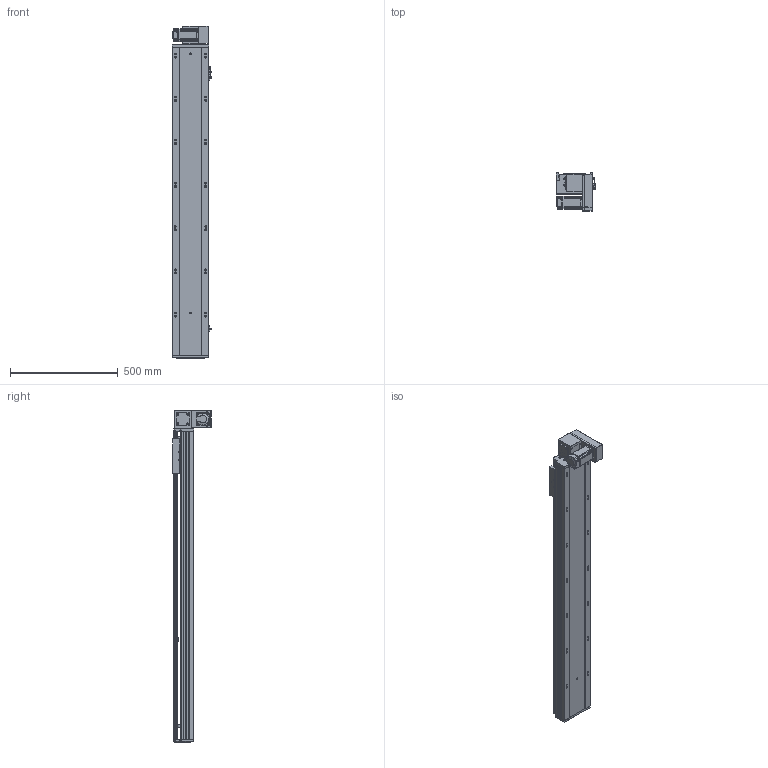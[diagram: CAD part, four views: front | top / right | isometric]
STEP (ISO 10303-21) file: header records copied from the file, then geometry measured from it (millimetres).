
FILE_DESCRIPTION (( 'STEP AP203' ), '1' );
FILE_NAME ('RY170-T-300-DR-P400W.SLDASM_1150.step', '2021-03-01T08:23:38', ( '盈信电脑' ), ( '东莞市道滘镇水果街19号' ), 'SwSTEP 2.0', 'SolidWorks 2012', '' );
FILE_SCHEMA (( 'CONFIG_CONTROL_DESIGN' ));
Length unit declared in the file: millimetre
Products named in the file (19): RY170-T-呴雄粣揤踡啣; 15; RY170-T-300-DR-P400W.SLDASM_1150; 滅袉蝶18-10; RY170-T肮祭謫裔啣; RY170-T蹟翐M4; RY120-T主同步轮轴承压盖; RY170-T肮祭湍揤踡輸1; RY170肮祭謫萇儂欶; RY170同步轮电机安装板(400W); RY170-T肮祭湍揤踡輸2; RY170翋肮祭謫釱; RY170肮祭謫ヶ裔啣; RY170外置感应片(200共用）; 覜茼ん672; RY170綴裔啣; RY170肮祭湍臏賑輸; RY170-T-300肮祭謫倰第裔啣-DR_1150; RY170-T-300肮祭謫倰第菁釱-DR_1150
Assembly tree (23 placements, depth 2):
  RY170-T-300-DR-P400W.SLDASM_1150
    RY170-T-300肮祭謫倰第菁釱-DR_1150
    RY170肮祭湍臏賑輸
    RY170-T-300肮祭謫倰第裔啣-DR_1150
    RY170綴裔啣
    覜茼ん672  x3
    RY170外置感应片(200共用）
    RY170肮祭謫ヶ裔啣
    RY170翋肮祭謫釱
    RY170同步轮电机安装板(400W)
    RY170肮祭謫萇儂欶
    RY170-T肮祭湍揤踡輸1  x2
    RY170-T肮祭湍揤踡輸2  x2
    RY120-T主同步轮轴承压盖
    RY170-T肮祭謫裔啣
    RY170-T蹟翐M4
    滅袉蝶18-10  x2
    RY170-T-呴雄粣揤踡啣
    15
Bounding box: 183.7 x 178 x 1538 mm (x, y, z)
Volume: 7549025.7 mm3; surface area: 2565035.8 mm2
Topology: 23 solids, 23 shells, 2770 faces, 7658 edges, 4907 vertices
Faces by surface type: plane 1264, cylinder 1228, cone 248, bspline 30
Entity records: 82141 total; most frequent: CARTESIAN_POINT 18025, ORIENTED_EDGE 13000, DIRECTION 12876, EDGE_CURVE 6500, AXIS2_PLACEMENT_3D 4528, VERTEX_POINT 4263, VECTOR 3820, LINE 3820
